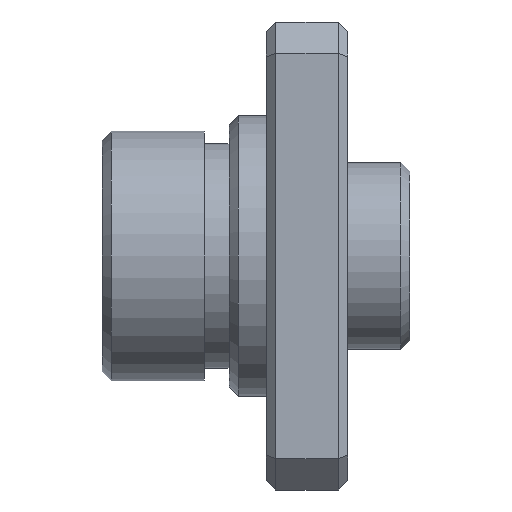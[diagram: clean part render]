
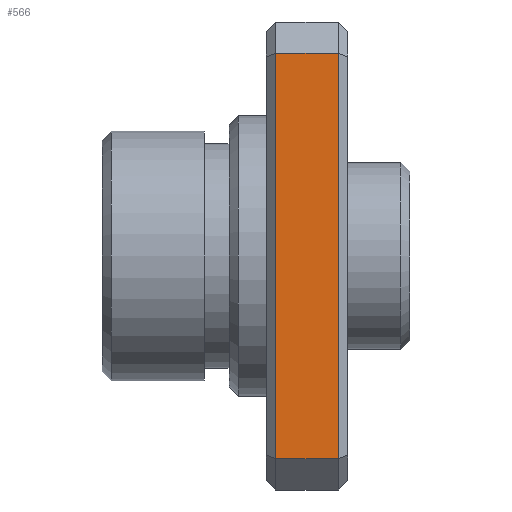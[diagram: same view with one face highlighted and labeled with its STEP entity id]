
A CAD part, left-side view. The second image highlights one B-rep face of the part: STEP entity #566.
In plain terms, the highlighted planar face has unit normal (-1, 0, 0).
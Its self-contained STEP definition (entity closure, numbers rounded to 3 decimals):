
#1 = LINE ( 'NONE', #1704, #1571 ) ;
#34 = CARTESIAN_POINT ( 'NONE',  ( -7.5, 2.6, 6.5 ) ) ;
#37 = LINE ( 'NONE', #856, #1132 ) ;
#87 = VERTEX_POINT ( 'NONE', #2199 ) ;
#131 = VERTEX_POINT ( 'NONE', #2075 ) ;
#219 = DIRECTION ( 'NONE',  ( 0., 1., 0. ) ) ;
#234 = LINE ( 'NONE', #34, #1761 ) ;
#240 = CARTESIAN_POINT ( 'NONE',  ( -7.5, 2.6, -7.5 ) ) ;
#285 = EDGE_CURVE ( 'NONE', #87, #131, #234, .T. ) ;
#306 = VERTEX_POINT ( 'NONE', #2114 ) ;
#421 = EDGE_LOOP ( 'NONE', ( #1764, #1913, #1020, #2041 ) ) ;
#507 = EDGE_CURVE ( 'NONE', #131, #306, #1, .T. ) ;
#566 = ADVANCED_FACE ( 'NONE', ( #2138 ), #1572, .F. ) ;
#580 = VERTEX_POINT ( 'NONE', #2346 ) ;
#611 = DIRECTION ( 'NONE',  ( 0., 0., -1. ) ) ;
#627 = DIRECTION ( 'NONE',  ( 1., 0., 0. ) ) ;
#665 = LINE ( 'NONE', #2031, #1999 ) ;
#710 = DIRECTION ( 'NONE',  ( 0., -1., 0. ) ) ;
#802 = DIRECTION ( 'NONE',  ( 0., 0., -1. ) ) ;
#856 = CARTESIAN_POINT ( 'NONE',  ( -7.5, 0.3, -7.5 ) ) ;
#1008 = EDGE_CURVE ( 'NONE', #580, #87, #37, .T. ) ;
#1020 = ORIENTED_EDGE ( 'NONE', *, *, #285, .T. ) ;
#1132 = VECTOR ( 'NONE', #1986, 1000. ) ;
#1336 = AXIS2_PLACEMENT_3D ( 'NONE', #240, #627, #611 ) ;
#1571 = VECTOR ( 'NONE', #802, 1000. ) ;
#1572 = PLANE ( 'NONE',  #1336 ) ;
#1704 = CARTESIAN_POINT ( 'NONE',  ( -7.5, 2.3, -6.5 ) ) ;
#1761 = VECTOR ( 'NONE', #219, 1000. ) ;
#1764 = ORIENTED_EDGE ( 'NONE', *, *, #1900, .T. ) ;
#1900 = EDGE_CURVE ( 'NONE', #306, #580, #665, .T. ) ;
#1913 = ORIENTED_EDGE ( 'NONE', *, *, #1008, .T. ) ;
#1986 = DIRECTION ( 'NONE',  ( 0., 0., 1. ) ) ;
#1999 = VECTOR ( 'NONE', #710, 1000. ) ;
#2031 = CARTESIAN_POINT ( 'NONE',  ( -7.5, 2.6, -6.5 ) ) ;
#2041 = ORIENTED_EDGE ( 'NONE', *, *, #507, .T. ) ;
#2075 = CARTESIAN_POINT ( 'NONE',  ( -7.5, 2.3, 6.5 ) ) ;
#2114 = CARTESIAN_POINT ( 'NONE',  ( -7.5, 2.3, -6.5 ) ) ;
#2138 = FACE_OUTER_BOUND ( 'NONE', #421, .T. ) ;
#2199 = CARTESIAN_POINT ( 'NONE',  ( -7.5, 0.3, 6.5 ) ) ;
#2346 = CARTESIAN_POINT ( 'NONE',  ( -7.5, 0.3, -6.5 ) ) ;
